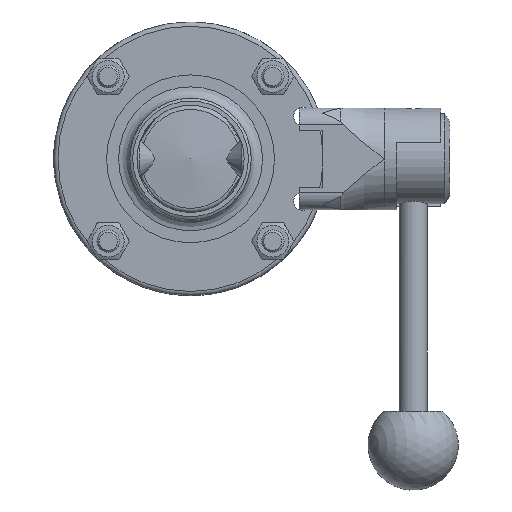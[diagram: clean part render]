
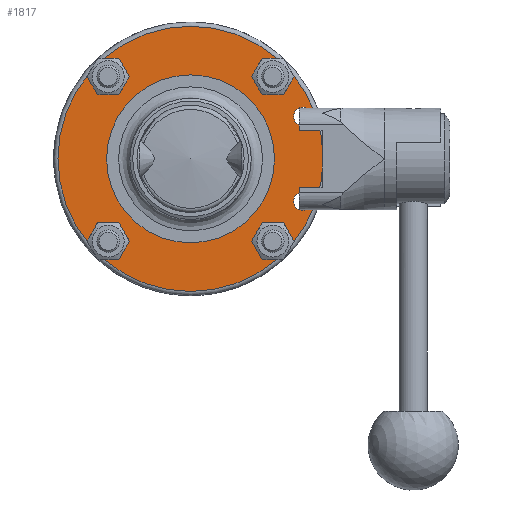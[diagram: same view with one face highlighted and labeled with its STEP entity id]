
A CAD part, front view. The second image highlights one B-rep face of the part: STEP entity #1817.
In plain terms, the highlighted planar face has unit normal (0, -1, 0).
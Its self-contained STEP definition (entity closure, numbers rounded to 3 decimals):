
#1268=CARTESIAN_POINT('',(-36.55,11.9,15.0));
#1269=VERTEX_POINT('',#1268);
#1270=CARTESIAN_POINT('',(-39.8,11.9,15.0));
#1271=DIRECTION('',(0.0,1.0,0.0));
#1272=DIRECTION('',(-1.0,0.0,0.0));
#1273=AXIS2_PLACEMENT_3D('',#1270,#1271,#1272);
#1274=CIRCLE('',#1273,3.25);
#1275=EDGE_CURVE('',#1269,#1269,#1274,.T.);
#1296=CARTESIAN_POINT('',(-36.55,11.9,-15.0));
#1297=VERTEX_POINT('',#1296);
#1298=CARTESIAN_POINT('',(-39.8,11.9,-15.0));
#1299=DIRECTION('',(0.0,1.0,0.0));
#1300=DIRECTION('',(-1.0,0.0,0.0));
#1301=AXIS2_PLACEMENT_3D('',#1298,#1299,#1300);
#1302=CIRCLE('',#1301,3.25);
#1303=EDGE_CURVE('',#1297,#1297,#1302,.T.);
#1554=CARTESIAN_POINT('',(-29.168,11.9,24.918));
#1555=VERTEX_POINT('',#1554);
#1556=CARTESIAN_POINT('',(-29.168,11.9,29.168));
#1557=DIRECTION('',(0.0,1.0,0.0));
#1558=DIRECTION('',(0.0,0.0,1.0));
#1559=AXIS2_PLACEMENT_3D('',#1556,#1557,#1558);
#1560=CIRCLE('',#1559,4.25);
#1561=EDGE_CURVE('',#1555,#1555,#1560,.T.);
#1574=CARTESIAN_POINT('',(24.918,11.9,29.168));
#1575=VERTEX_POINT('',#1574);
#1576=CARTESIAN_POINT('',(29.168,11.9,29.168));
#1577=DIRECTION('',(0.0,1.0,0.0));
#1578=DIRECTION('',(1.0,0.0,0.0));
#1579=AXIS2_PLACEMENT_3D('',#1576,#1577,#1578);
#1580=CIRCLE('',#1579,4.25);
#1581=EDGE_CURVE('',#1575,#1575,#1580,.T.);
#1594=CARTESIAN_POINT('',(29.168,11.9,-24.918));
#1595=VERTEX_POINT('',#1594);
#1596=CARTESIAN_POINT('',(29.168,11.9,-29.168));
#1597=DIRECTION('',(0.0,1.0,0.0));
#1598=DIRECTION('',(0.0,0.0,-1.0));
#1599=AXIS2_PLACEMENT_3D('',#1596,#1597,#1598);
#1600=CIRCLE('',#1599,4.25);
#1601=EDGE_CURVE('',#1595,#1595,#1600,.T.);
#1614=CARTESIAN_POINT('',(-24.918,11.9,-29.168));
#1615=VERTEX_POINT('',#1614);
#1616=CARTESIAN_POINT('',(-29.168,11.9,-29.168));
#1617=DIRECTION('',(0.0,1.0,0.0));
#1618=DIRECTION('',(-1.0,0.0,0.0));
#1619=AXIS2_PLACEMENT_3D('',#1616,#1617,#1618);
#1620=CIRCLE('',#1619,4.25);
#1621=EDGE_CURVE('',#1615,#1615,#1620,.T.);
#1768=CARTESIAN_POINT('',(47.0,11.9,0.));
#1769=VERTEX_POINT('',#1768);
#1770=CARTESIAN_POINT('',(0.0,11.9,0.0));
#1771=DIRECTION('',(0.0,1.0,0.0));
#1772=DIRECTION('',(-1.0,0.0,0.0));
#1773=AXIS2_PLACEMENT_3D('',#1770,#1771,#1772);
#1774=CIRCLE('',#1773,47.0);
#1775=EDGE_CURVE('',#1769,#1769,#1774,.T.);
#1780=CARTESIAN_POINT('',(39.125,11.9,0.0));
#1781=DIRECTION('',(0.0,-1.0,0.0));
#1782=DIRECTION('',(0.0,0.0,-1.0));
#1783=AXIS2_PLACEMENT_3D('',#1780,#1781,#1782);
#1784=PLANE('',#1783);
#1785=ORIENTED_EDGE('',*,*,#1775,.F.);
#1786=EDGE_LOOP('',(#1785));
#1787=FACE_OUTER_BOUND('',#1786,.T.);
#1788=ORIENTED_EDGE('',*,*,#1275,.T.);
#1789=EDGE_LOOP('',(#1788));
#1790=FACE_BOUND('',#1789,.T.);
#1791=ORIENTED_EDGE('',*,*,#1303,.T.);
#1792=EDGE_LOOP('',(#1791));
#1793=FACE_BOUND('',#1792,.T.);
#1794=ORIENTED_EDGE('',*,*,#1561,.T.);
#1795=EDGE_LOOP('',(#1794));
#1796=FACE_BOUND('',#1795,.T.);
#1797=ORIENTED_EDGE('',*,*,#1581,.T.);
#1798=EDGE_LOOP('',(#1797));
#1799=FACE_BOUND('',#1798,.T.);
#1800=ORIENTED_EDGE('',*,*,#1601,.T.);
#1801=EDGE_LOOP('',(#1800));
#1802=FACE_BOUND('',#1801,.T.);
#1803=ORIENTED_EDGE('',*,*,#1621,.T.);
#1804=EDGE_LOOP('',(#1803));
#1805=FACE_BOUND('',#1804,.T.);
#1806=CARTESIAN_POINT('',(29.75,11.9,0.0));
#1807=VERTEX_POINT('',#1806);
#1808=CARTESIAN_POINT('',(0.0,11.9,0.0));
#1809=DIRECTION('',(0.0,-1.0,0.0));
#1810=DIRECTION('',(1.0,0.0,0.0));
#1811=AXIS2_PLACEMENT_3D('',#1808,#1809,#1810);
#1812=CIRCLE('',#1811,29.75);
#1813=EDGE_CURVE('',#1807,#1807,#1812,.T.);
#1814=ORIENTED_EDGE('',*,*,#1813,.F.);
#1815=EDGE_LOOP('',(#1814));
#1816=FACE_BOUND('',#1815,.T.);
#1817=ADVANCED_FACE('',(#1787,#1790,#1793,#1796,#1799,#1802,#1805,#1816),#1784,.T.);
